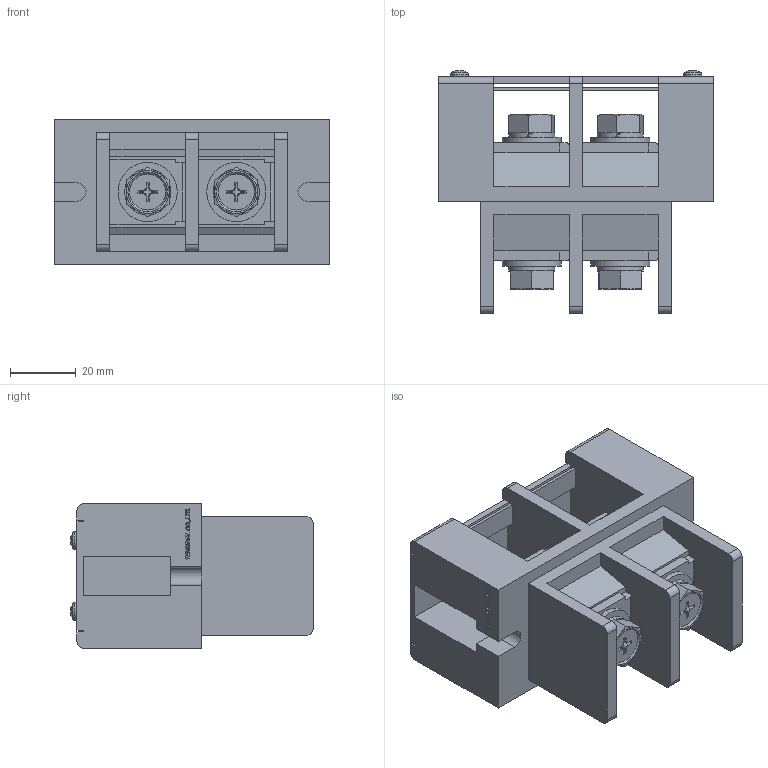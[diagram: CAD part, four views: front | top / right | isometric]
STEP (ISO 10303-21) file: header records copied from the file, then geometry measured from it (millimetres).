
FILE_DESCRIPTION(/* description */ ('Alibre Inc.'),/* implementation_level */ '2;1');
FILE_NAME(/* name */ 'export0',/* time_stamp */ '2016-04-05T18:33:13+09:00',/* author */ (''),/* organization */ (''),/* preprocessor_version */ 'ST-DEVELOPER v14',/* originating_system */ 'Alibre',/* authorisation */ '');
FILE_SCHEMA (('CONFIG_CONTROL_DESIGN'));
Length unit declared in the file: centimetre
Products named in the file (1): ID_1
Bounding box: 84 x 73.94 x 44 mm (x, y, z)
Volume: 106832.5 mm3; surface area: 43301.7 mm2
Topology: 2 solids, 4 shells, 600 faces, 1611 edges, 1048 vertices
Faces by surface type: plane 444, cone 56, bspline 52, cylinder 44, sphere 2, torus 2
Full cylindrical faces by diameter (mm): 3 x4, 5.5 x2, 8 x4, 18 x4
Entity records: 17328 total; most frequent: CARTESIAN_POINT 3668, ORIENTED_EDGE 3162, DIRECTION 2102, EDGE_CURVE 1581, VECTOR 1062, LINE 1062, VERTEX_POINT 1042, AXIS2_PLACEMENT_3D 716
